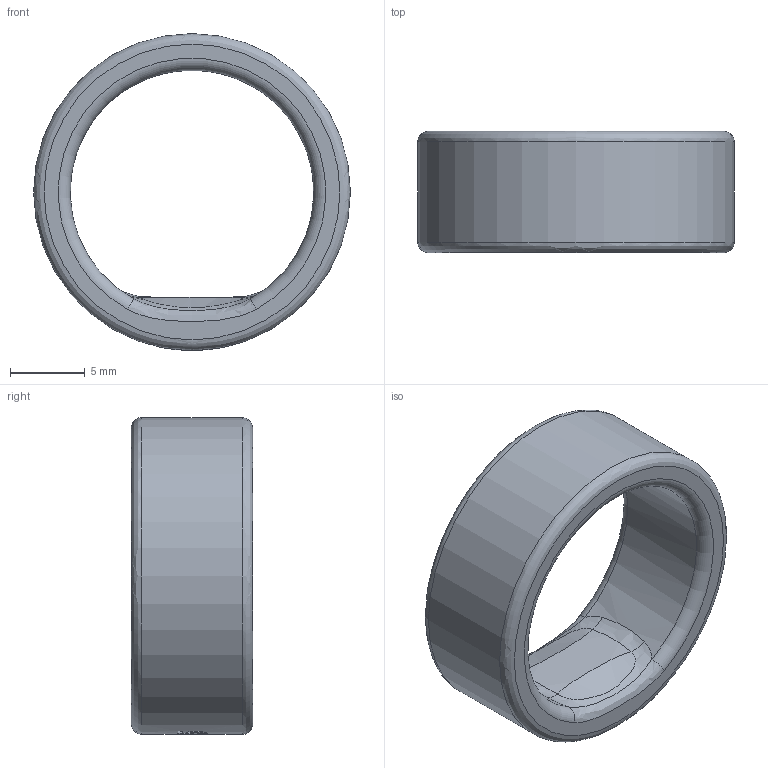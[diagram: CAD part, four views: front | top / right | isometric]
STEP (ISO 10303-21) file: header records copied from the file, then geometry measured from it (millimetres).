
FILE_DESCRIPTION(/* description */ (''),/* implementation_level */ '2;1');
FILE_NAME(/* name */ 'Size 05_Sizing Kit v5.step',/* time_stamp */ '2024-05-07T15:21:26+05:30',/* author */ (''),/* organization */ (''),/* preprocessor_version */ 'ST-DEVELOPER v20',/* originating_system */ 'Autodesk Translation Framework v12.20.1.177',/* authorisation */ '');
FILE_SCHEMA (('AUTOMOTIVE_DESIGN { 1 0 10303 214 3 1 1 }'));
Length unit declared in the file: millimetre
Products named in the file (1): Size 05_Sizing Kit
Bounding box: 21.14 x 8.1 x 21.14 mm (x, y, z)
Volume: 1158.4 mm3; surface area: 1368.6 mm2
Topology: 1 solids, 3 shells, 106 faces, 314 edges, 218 vertices
Faces by surface type: bspline 79, plane 15, cylinder 10, torus 2
Full cylindrical faces by diameter (mm): 20.266 x2, 20.543 x2, 21.143 x1
Entity records: 10633 total; most frequent: CARTESIAN_POINT 8252, ORIENTED_EDGE 628, EDGE_CURVE 314, DIRECTION 256, VERTEX_POINT 218, B_SPLINE_CURVE_WITH_KNOTS 173, EDGE_LOOP 116, FACE_OUTER_BOUND 106
